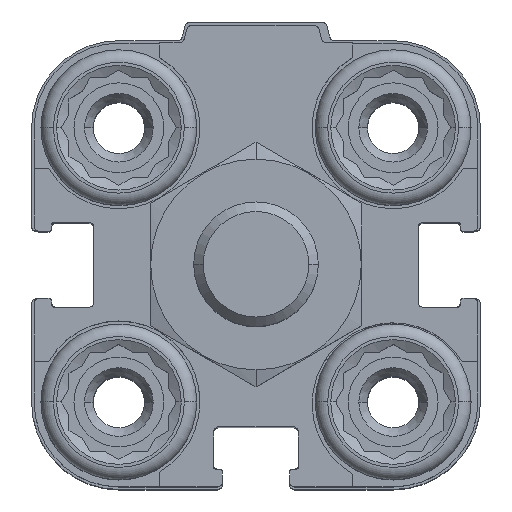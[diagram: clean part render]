
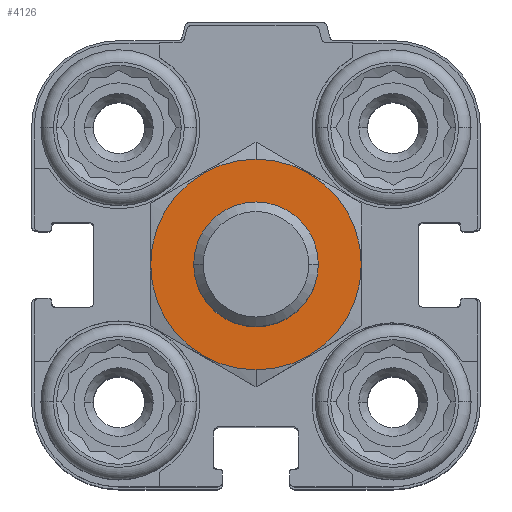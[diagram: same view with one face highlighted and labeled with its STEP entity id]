
A CAD part, top view. The second image highlights one B-rep face of the part: STEP entity #4126.
In plain terms, the highlighted planar face has unit normal (0, 0, 1).
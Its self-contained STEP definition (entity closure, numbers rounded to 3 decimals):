
#140 = FACE_OUTER_BOUND ( 'NONE', #16912, .T. ) ;
#144 = DIRECTION ( 'NONE',  ( 0., -1., 0. ) ) ;
#341 = CIRCLE ( 'NONE', #11201, 8.45 ) ;
#802 = CARTESIAN_POINT ( 'NONE',  ( 0., -8.45, 13.5 ) ) ;
#963 = CARTESIAN_POINT ( 'NONE',  ( 0., 0., 13.5 ) ) ;
#1404 = DIRECTION ( 'NONE',  ( 0., -1., 0. ) ) ;
#1586 = CIRCLE ( 'NONE', #16797, 5. ) ;
#1689 = PLANE ( 'NONE',  #16111 ) ;
#1735 = DIRECTION ( 'NONE',  ( 0., 0., -1. ) ) ;
#1820 = EDGE_CURVE ( 'NONE', #9538, #6116, #3786, .T. ) ;
#1930 = CARTESIAN_POINT ( 'NONE',  ( 0., 0., 13.5 ) ) ;
#2128 = DIRECTION ( 'NONE',  ( 0., 0., -1. ) ) ;
#2649 = ORIENTED_EDGE ( 'NONE', *, *, #1820, .F. ) ;
#2881 = ORIENTED_EDGE ( 'NONE', *, *, #15515, .T. ) ;
#3786 = CIRCLE ( 'NONE', #14951, 8.45 ) ;
#4126 = ADVANCED_FACE ( 'NONE', ( #140, #11991 ), #1689, .F. ) ;
#4794 = CARTESIAN_POINT ( 'NONE',  ( 0., 0., 13.5 ) ) ;
#5496 = EDGE_LOOP ( 'NONE', ( #9493, #2881 ) ) ;
#6116 = VERTEX_POINT ( 'NONE', #14884 ) ;
#6416 = CARTESIAN_POINT ( 'NONE',  ( 0., 5., 13.5 ) ) ;
#7331 = AXIS2_PLACEMENT_3D ( 'NONE', #963, #2128, #9699 ) ;
#8461 = VERTEX_POINT ( 'NONE', #6416 ) ;
#9163 = DIRECTION ( 'NONE',  ( 0., 0., -1. ) ) ;
#9493 = ORIENTED_EDGE ( 'NONE', *, *, #12117, .T. ) ;
#9538 = VERTEX_POINT ( 'NONE', #802 ) ;
#9699 = DIRECTION ( 'NONE',  ( 0., -1., 0. ) ) ;
#10123 = CIRCLE ( 'NONE', #7331, 5. ) ;
#11201 = AXIS2_PLACEMENT_3D ( 'NONE', #15854, #18661, #14297 ) ;
#11991 = FACE_BOUND ( 'NONE', #5496, .T. ) ;
#12117 = EDGE_CURVE ( 'NONE', #8461, #13205, #10123, .T. ) ;
#13205 = VERTEX_POINT ( 'NONE', #13629 ) ;
#13629 = CARTESIAN_POINT ( 'NONE',  ( 0., -5., 13.5 ) ) ;
#13796 = DIRECTION ( 'NONE',  ( 0., -1., 0. ) ) ;
#14297 = DIRECTION ( 'NONE',  ( 0., -1., 0. ) ) ;
#14731 = CARTESIAN_POINT ( 'NONE',  ( 0., 0., 13.5 ) ) ;
#14884 = CARTESIAN_POINT ( 'NONE',  ( 0., 8.45, 13.5 ) ) ;
#14951 = AXIS2_PLACEMENT_3D ( 'NONE', #14731, #17747, #144 ) ;
#15252 = EDGE_CURVE ( 'NONE', #6116, #9538, #341, .T. ) ;
#15515 = EDGE_CURVE ( 'NONE', #13205, #8461, #1586, .T. ) ;
#15854 = CARTESIAN_POINT ( 'NONE',  ( 0., 0., 13.5 ) ) ;
#16111 = AXIS2_PLACEMENT_3D ( 'NONE', #4794, #9163, #1404 ) ;
#16797 = AXIS2_PLACEMENT_3D ( 'NONE', #1930, #1735, #13796 ) ;
#16912 = EDGE_LOOP ( 'NONE', ( #2649, #17822 ) ) ;
#17747 = DIRECTION ( 'NONE',  ( 0., 0., -1. ) ) ;
#17822 = ORIENTED_EDGE ( 'NONE', *, *, #15252, .F. ) ;
#18661 = DIRECTION ( 'NONE',  ( 0., 0., -1. ) ) ;
